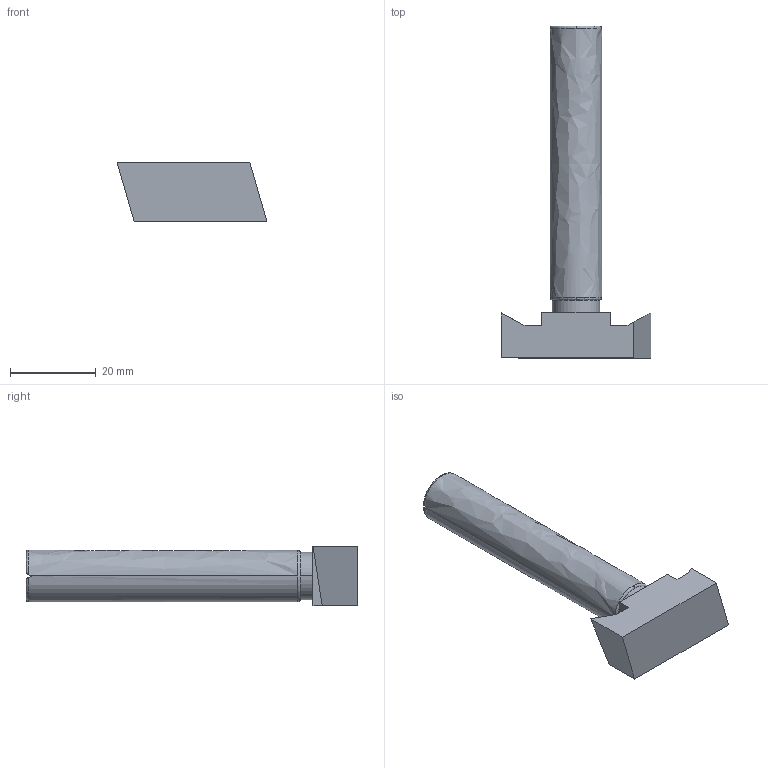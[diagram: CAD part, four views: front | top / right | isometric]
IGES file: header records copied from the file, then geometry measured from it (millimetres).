
Start section: 3D InterOp IGES (v. 2019 1.0.2), Spatial Corp. Copyright (c) 1999-2017.
Global section: file name: TPH1270.igs; native system: Spatial Corp.; preprocessor: 3D InterOp GENERIC/IGES 3.0; author: Noname; organization: Noname; date: 20210225.084228; units: millimetre
Bounding box: 35 x 77.5 x 14 mm (x, y, z)
Surface area: 4373.5 mm2 (no closed solid volume)
Topology: 0 solids, 0 shells, 25 faces, 132 edges, 132 vertices
Faces by surface type: extrusion 16, revolution 9
